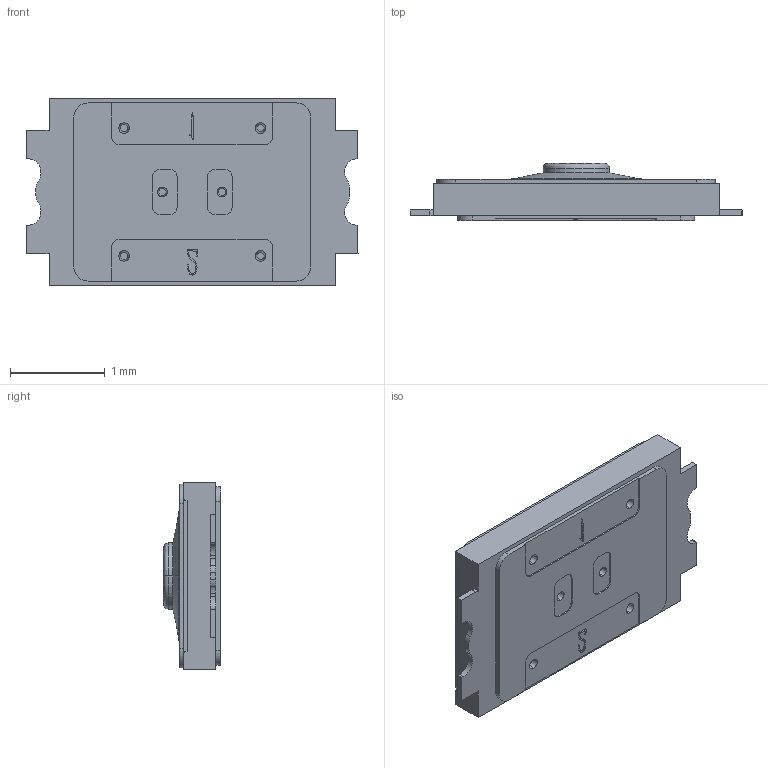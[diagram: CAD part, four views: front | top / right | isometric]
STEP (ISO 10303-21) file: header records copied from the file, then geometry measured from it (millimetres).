
FILE_DESCRIPTION (( 'STEP AP203' ), '1' );
FILE_NAME ('TAF03-C.STEP', '2024-06-03T03:21:31', ( '' ), ( '' ), 'SwSTEP 2.0', 'SolidWorks 2020', '' );
FILE_SCHEMA (( 'CONFIG_CONTROL_DESIGN' ));
Length unit declared in the file: millimetre
Products named in the file (1): TAF03-C
Bounding box: 3.5 x 0.6 x 1.98 mm (x, y, z)
Volume: 2.6 mm3; surface area: 18.1 mm2
Topology: 1 solids, 1 shells, 166 faces, 446 edges, 294 vertices
Faces by surface type: plane 92, cylinder 40, bspline 20, cone 14
Entity records: 6063 total; most frequent: CARTESIAN_POINT 1847, ORIENTED_EDGE 892, DIRECTION 818, EDGE_CURVE 446, LINE 296, VECTOR 296, VERTEX_POINT 294, AXIS2_PLACEMENT_3D 261
